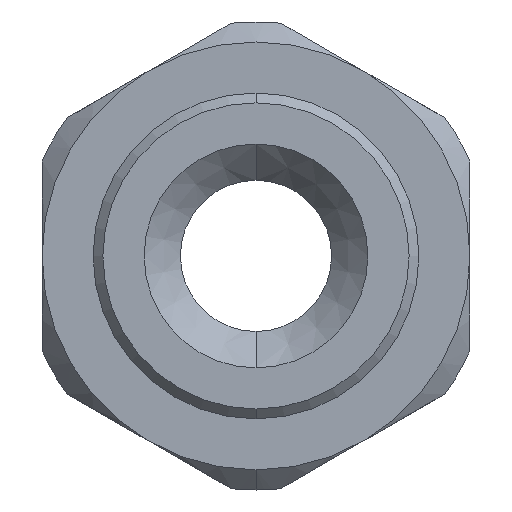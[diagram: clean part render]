
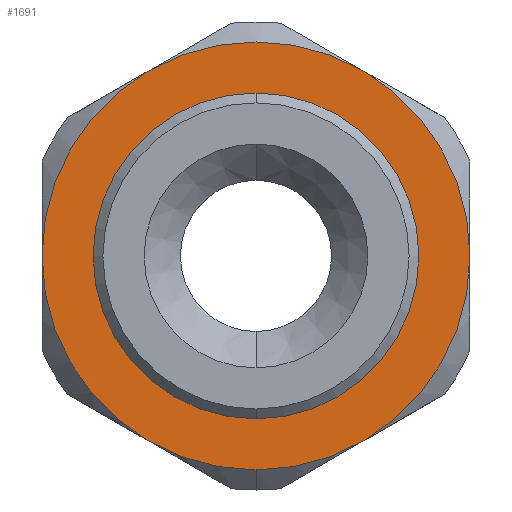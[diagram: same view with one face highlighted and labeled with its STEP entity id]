
A CAD part, front view. The second image highlights one B-rep face of the part: STEP entity #1691.
In plain terms, the highlighted planar face has unit normal (0, -1, 0).
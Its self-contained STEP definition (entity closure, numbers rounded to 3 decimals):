
#10 = CIRCLE ( 'NONE', #1484, 10.9 ) ;
#27 = CIRCLE ( 'NONE', #1510, 10.9 ) ;
#31 = CIRCLE ( 'NONE', #1569, 10.9 ) ;
#40 = CIRCLE ( 'NONE', #260, 8.3 ) ;
#49 = CIRCLE ( 'NONE', #1522, 10.9 ) ;
#52 = CIRCLE ( 'NONE', #1503, 10.9 ) ;
#90 = CIRCLE ( 'NONE', #1531, 10.9 ) ;
#103 = CIRCLE ( 'NONE', #1547, 10.9 ) ;
#115 = CIRCLE ( 'NONE', #1537, 8.3 ) ;
#260 = AXIS2_PLACEMENT_3D ( 'NONE', #994, #1002, #1003 ) ;
#271 = FACE_OUTER_BOUND ( 'NONE', #521, .T. ) ;
#273 = AXIS2_PLACEMENT_3D ( 'NONE', #712, #713, #714 ) ;
#313 = FACE_BOUND ( 'NONE', #520, .T. ) ;
#520 = EDGE_LOOP ( 'NONE', ( #564, #565 ) ) ;
#521 = EDGE_LOOP ( 'NONE', ( #566, #568, #567, #569, #570, #571, #572 ) ) ;
#564 = ORIENTED_EDGE ( 'NONE', *, *, #2021, .F. ) ;
#565 = ORIENTED_EDGE ( 'NONE', *, *, #2165, .F. ) ;
#566 = ORIENTED_EDGE ( 'NONE', *, *, #2163, .T. ) ;
#567 = ORIENTED_EDGE ( 'NONE', *, *, #2161, .T. ) ;
#568 = ORIENTED_EDGE ( 'NONE', *, *, #2168, .T. ) ;
#569 = ORIENTED_EDGE ( 'NONE', *, *, #2158, .T. ) ;
#570 = ORIENTED_EDGE ( 'NONE', *, *, #2156, .T. ) ;
#571 = ORIENTED_EDGE ( 'NONE', *, *, #2197, .T. ) ;
#572 = ORIENTED_EDGE ( 'NONE', *, *, #2154, .T. ) ;
#711 = PLANE ( 'NONE',  #273 ) ;
#712 = CARTESIAN_POINT ( 'NONE',  ( -11.925, 1., 0. ) ) ;
#713 = DIRECTION ( 'NONE',  ( 0., 1., 0. ) ) ;
#714 = DIRECTION ( 'NONE',  ( 0., 0., 1. ) ) ;
#949 = CARTESIAN_POINT ( 'NONE',  ( -5.45, 1., -9.44 ) ) ;
#953 = CARTESIAN_POINT ( 'NONE',  ( -10.9, 1., 0. ) ) ;
#957 = CARTESIAN_POINT ( 'NONE',  ( -5.45, 1., 9.44 ) ) ;
#958 = CARTESIAN_POINT ( 'NONE',  ( 5.45, 1., 9.44 ) ) ;
#962 = CARTESIAN_POINT ( 'NONE',  ( 10.9, 1., 0. ) ) ;
#994 = CARTESIAN_POINT ( 'NONE',  ( 0., 1., 0. ) ) ;
#1002 = DIRECTION ( 'NONE',  ( 0., -1., 0. ) ) ;
#1003 = DIRECTION ( 'NONE',  ( 0., 0., -1. ) ) ;
#1046 = CARTESIAN_POINT ( 'NONE',  ( 0., 1., -10.9 ) ) ;
#1050 = CARTESIAN_POINT ( 'NONE',  ( 5.45, 1., -9.44 ) ) ;
#1176 = CARTESIAN_POINT ( 'NONE',  ( 0., 1., -8.3 ) ) ;
#1185 = CARTESIAN_POINT ( 'NONE',  ( 0., 1., 8.3 ) ) ;
#1277 = CARTESIAN_POINT ( 'NONE',  ( 0., 1., 0. ) ) ;
#1278 = DIRECTION ( 'NONE',  ( 0., -1., 0. ) ) ;
#1279 = DIRECTION ( 'NONE',  ( 0., 0., -1. ) ) ;
#1280 = CARTESIAN_POINT ( 'NONE',  ( 0., 1., 0. ) ) ;
#1281 = DIRECTION ( 'NONE',  ( 0., -1., 0. ) ) ;
#1282 = DIRECTION ( 'NONE',  ( 0., 0., -1. ) ) ;
#1283 = CARTESIAN_POINT ( 'NONE',  ( 0., 1., 0. ) ) ;
#1284 = DIRECTION ( 'NONE',  ( 0., -1., 0. ) ) ;
#1285 = DIRECTION ( 'NONE',  ( 0., 0., -1. ) ) ;
#1286 = CARTESIAN_POINT ( 'NONE',  ( 0., 1., 0. ) ) ;
#1287 = DIRECTION ( 'NONE',  ( 0., -1., 0. ) ) ;
#1288 = DIRECTION ( 'NONE',  ( 0., 0., -1. ) ) ;
#1289 = CARTESIAN_POINT ( 'NONE',  ( 0., 1., 0. ) ) ;
#1290 = DIRECTION ( 'NONE',  ( 0., -1., 0. ) ) ;
#1291 = DIRECTION ( 'NONE',  ( 0., 0., -1. ) ) ;
#1292 = CARTESIAN_POINT ( 'NONE',  ( 0., 1., 0. ) ) ;
#1293 = DIRECTION ( 'NONE',  ( 0., -1., 0. ) ) ;
#1294 = DIRECTION ( 'NONE',  ( 0., 0., -1. ) ) ;
#1295 = CARTESIAN_POINT ( 'NONE',  ( 0., 1., 0. ) ) ;
#1296 = DIRECTION ( 'NONE',  ( 0., -1., 0. ) ) ;
#1297 = DIRECTION ( 'NONE',  ( 0., 0., -1. ) ) ;
#1335 = CARTESIAN_POINT ( 'NONE',  ( 0., 1., 0. ) ) ;
#1336 = DIRECTION ( 'NONE',  ( 0., -1., 0. ) ) ;
#1337 = DIRECTION ( 'NONE',  ( 0., 0., -1. ) ) ;
#1484 = AXIS2_PLACEMENT_3D ( 'NONE', #1295, #1296, #1297 ) ;
#1503 = AXIS2_PLACEMENT_3D ( 'NONE', #1335, #1336, #1337 ) ;
#1510 = AXIS2_PLACEMENT_3D ( 'NONE', #1280, #1281, #1282 ) ;
#1522 = AXIS2_PLACEMENT_3D ( 'NONE', #1283, #1284, #1285 ) ;
#1531 = AXIS2_PLACEMENT_3D ( 'NONE', #1289, #1290, #1291 ) ;
#1537 = AXIS2_PLACEMENT_3D ( 'NONE', #1292, #1293, #1294 ) ;
#1547 = AXIS2_PLACEMENT_3D ( 'NONE', #1286, #1287, #1288 ) ;
#1569 = AXIS2_PLACEMENT_3D ( 'NONE', #1277, #1278, #1279 ) ;
#1691 = ADVANCED_FACE ( 'NONE', ( #313, #271 ), #711, .F. ) ;
#1986 = VERTEX_POINT ( 'NONE', #949 ) ;
#1988 = VERTEX_POINT ( 'NONE', #953 ) ;
#1990 = VERTEX_POINT ( 'NONE', #957 ) ;
#1991 = VERTEX_POINT ( 'NONE', #958 ) ;
#1993 = VERTEX_POINT ( 'NONE', #962 ) ;
#2021 = EDGE_CURVE ( 'NONE', #2098, #2100, #40, .T. ) ;
#2045 = VERTEX_POINT ( 'NONE', #1046 ) ;
#2047 = VERTEX_POINT ( 'NONE', #1050 ) ;
#2098 = VERTEX_POINT ( 'NONE', #1176 ) ;
#2100 = VERTEX_POINT ( 'NONE', #1185 ) ;
#2154 = EDGE_CURVE ( 'NONE', #2047, #1993, #31, .T. ) ;
#2156 = EDGE_CURVE ( 'NONE', #1986, #2045, #27, .T. ) ;
#2158 = EDGE_CURVE ( 'NONE', #1988, #1986, #49, .T. ) ;
#2161 = EDGE_CURVE ( 'NONE', #1990, #1988, #103, .T. ) ;
#2163 = EDGE_CURVE ( 'NONE', #1993, #1991, #90, .T. ) ;
#2165 = EDGE_CURVE ( 'NONE', #2100, #2098, #115, .T. ) ;
#2168 = EDGE_CURVE ( 'NONE', #1991, #1990, #10, .T. ) ;
#2197 = EDGE_CURVE ( 'NONE', #2045, #2047, #52, .T. ) ;
